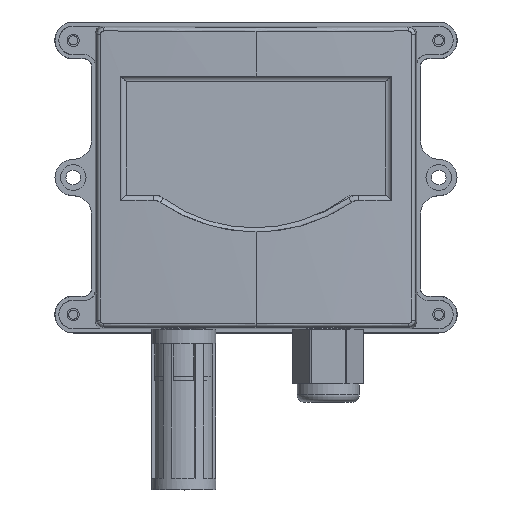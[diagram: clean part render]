
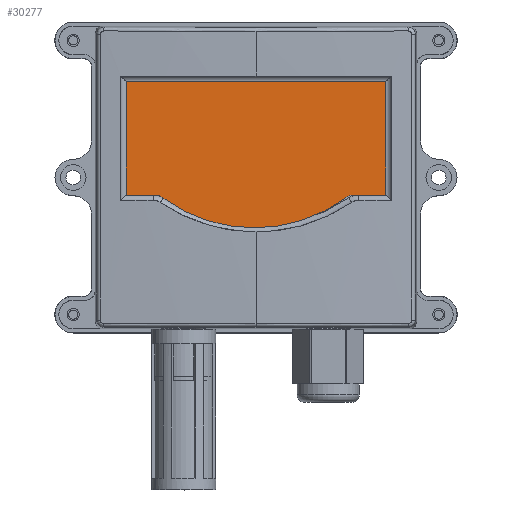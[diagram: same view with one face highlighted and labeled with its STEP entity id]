
A CAD part, top view. The second image highlights one B-rep face of the part: STEP entity #30277.
In plain terms, the highlighted planar face has unit normal (0, 0, 1).
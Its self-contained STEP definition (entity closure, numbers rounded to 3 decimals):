
#196 = FACE_OUTER_BOUND ( 'NONE', #7760, .T. ) ;
#323 = VECTOR ( 'NONE', #376, 1000. ) ;
#376 = DIRECTION ( 'NONE',  ( 0., 1., 0. ) ) ;
#554 = VERTEX_POINT ( 'NONE', #10965 ) ;
#1155 = CARTESIAN_POINT ( 'NONE',  ( 24.197, -16.478, 1. ) ) ;
#1598 = CARTESIAN_POINT ( 'NONE',  ( 35.5, 15.5, 1. ) ) ;
#1800 = AXIS2_PLACEMENT_3D ( 'NONE', #5976, #15508, #24958 ) ;
#2076 = DIRECTION ( 'NONE',  ( -1., 0., 0. ) ) ;
#3097 = VERTEX_POINT ( 'NONE', #27475 ) ;
#3829 = EDGE_CURVE ( 'NONE', #10611, #554, #13982, .T. ) ;
#4096 = CARTESIAN_POINT ( 'NONE',  ( -35.5, -15.5, 1. ) ) ;
#4851 = DIRECTION ( 'NONE',  ( 0., -1., 0. ) ) ;
#5250 = DIRECTION ( 'NONE',  ( 0., 0., -1. ) ) ;
#5976 = CARTESIAN_POINT ( 'NONE',  ( -27.5, -18.7, 1. ) ) ;
#6096 = ORIENTED_EDGE ( 'NONE', *, *, #26860, .T. ) ;
#6507 = CARTESIAN_POINT ( 'NONE',  ( -0.5, 17.734, 1. ) ) ;
#6750 = VECTOR ( 'NONE', #13647, 1000. ) ;
#7406 = DIRECTION ( 'NONE',  ( 1., 0., 0. ) ) ;
#7760 = EDGE_LOOP ( 'NONE', ( #27803, #6096, #23227, #19447, #21685, #26634, #11963, #22665 ) ) ;
#7997 = VERTEX_POINT ( 'NONE', #1155 ) ;
#9673 = EDGE_CURVE ( 'NONE', #29857, #26123, #25414, .T. ) ;
#9755 = PLANE ( 'NONE',  #16191 ) ;
#10611 = VERTEX_POINT ( 'NONE', #1598 ) ;
#10851 = CARTESIAN_POINT ( 'NONE',  ( -27.5, -15.5, 1. ) ) ;
#10965 = CARTESIAN_POINT ( 'NONE',  ( -35.5, 15.5, 1. ) ) ;
#11233 = LINE ( 'NONE', #20733, #30671 ) ;
#11963 = ORIENTED_EDGE ( 'NONE', *, *, #24908, .T. ) ;
#12263 = CARTESIAN_POINT ( 'NONE',  ( 35.5, -15.5, 1. ) ) ;
#12280 = LINE ( 'NONE', #21765, #323 ) ;
#13647 = DIRECTION ( 'NONE',  ( 1., 0., 0. ) ) ;
#13832 = AXIS2_PLACEMENT_3D ( 'NONE', #6507, #16036, #25476 ) ;
#13940 = VERTEX_POINT ( 'NONE', #12263 ) ;
#13982 = LINE ( 'NONE', #23449, #24045 ) ;
#14790 = DIRECTION ( 'NONE',  ( 1., 0., 0. ) ) ;
#15086 = CARTESIAN_POINT ( 'NONE',  ( 26.5, -15.5, 1. ) ) ;
#15301 = CIRCLE ( 'NONE', #1800, 3.2 ) ;
#15508 = DIRECTION ( 'NONE',  ( 0., 0., -1. ) ) ;
#15588 = EDGE_CURVE ( 'NONE', #554, #29857, #16725, .T. ) ;
#16036 = DIRECTION ( 'NONE',  ( 0., 0., 1. ) ) ;
#16191 = AXIS2_PLACEMENT_3D ( 'NONE', #19273, #28685, #7406 ) ;
#16697 = AXIS2_PLACEMENT_3D ( 'NONE', #26554, #5250, #14790 ) ;
#16725 = LINE ( 'NONE', #26162, #29483 ) ;
#19273 = CARTESIAN_POINT ( 'NONE',  ( -27.5, -18.7, 1. ) ) ;
#19447 = ORIENTED_EDGE ( 'NONE', *, *, #15588, .T. ) ;
#20733 = CARTESIAN_POINT ( 'NONE',  ( 26.5, -15.5, 1. ) ) ;
#21685 = ORIENTED_EDGE ( 'NONE', *, *, #9673, .T. ) ;
#21765 = CARTESIAN_POINT ( 'NONE',  ( 35.5, 15.5, 1. ) ) ;
#22665 = ORIENTED_EDGE ( 'NONE', *, *, #30075, .T. ) ;
#23227 = ORIENTED_EDGE ( 'NONE', *, *, #3829, .T. ) ;
#23449 = CARTESIAN_POINT ( 'NONE',  ( -35.5, 15.5, 1. ) ) ;
#24045 = VECTOR ( 'NONE', #2076, 1000. ) ;
#24241 = EDGE_CURVE ( 'NONE', #26123, #3097, #15301, .T. ) ;
#24908 = EDGE_CURVE ( 'NONE', #3097, #7997, #27187, .T. ) ;
#24958 = DIRECTION ( 'NONE',  ( 1., 0., 0. ) ) ;
#25414 = LINE ( 'NONE', #4096, #6750 ) ;
#25476 = DIRECTION ( 'NONE',  ( 1., 0., 0. ) ) ;
#26123 = VERTEX_POINT ( 'NONE', #10851 ) ;
#26162 = CARTESIAN_POINT ( 'NONE',  ( -35.5, 15.5, 1. ) ) ;
#26554 = CARTESIAN_POINT ( 'NONE',  ( 26.5, -18.7, 1. ) ) ;
#26634 = ORIENTED_EDGE ( 'NONE', *, *, #24241, .T. ) ;
#26860 = EDGE_CURVE ( 'NONE', #13940, #10611, #12280, .T. ) ;
#26911 = VERTEX_POINT ( 'NONE', #15086 ) ;
#27187 = CIRCLE ( 'NONE', #13832, 42.195 ) ;
#27475 = CARTESIAN_POINT ( 'NONE',  ( -25.197, -16.478, 1. ) ) ;
#27657 = EDGE_CURVE ( 'NONE', #26911, #13940, #11233, .T. ) ;
#27803 = ORIENTED_EDGE ( 'NONE', *, *, #27657, .T. ) ;
#28685 = DIRECTION ( 'NONE',  ( 0., 0., 1. ) ) ;
#29483 = VECTOR ( 'NONE', #4851, 1000. ) ;
#29857 = VERTEX_POINT ( 'NONE', #30428 ) ;
#30017 = CIRCLE ( 'NONE', #16697, 3.2 ) ;
#30075 = EDGE_CURVE ( 'NONE', #7997, #26911, #30017, .T. ) ;
#30155 = DIRECTION ( 'NONE',  ( 1., 0., 0. ) ) ;
#30277 = ADVANCED_FACE ( 'NONE', ( #196 ), #9755, .T. ) ;
#30428 = CARTESIAN_POINT ( 'NONE',  ( -35.5, -15.5, 1. ) ) ;
#30671 = VECTOR ( 'NONE', #30155, 1000. ) ;
